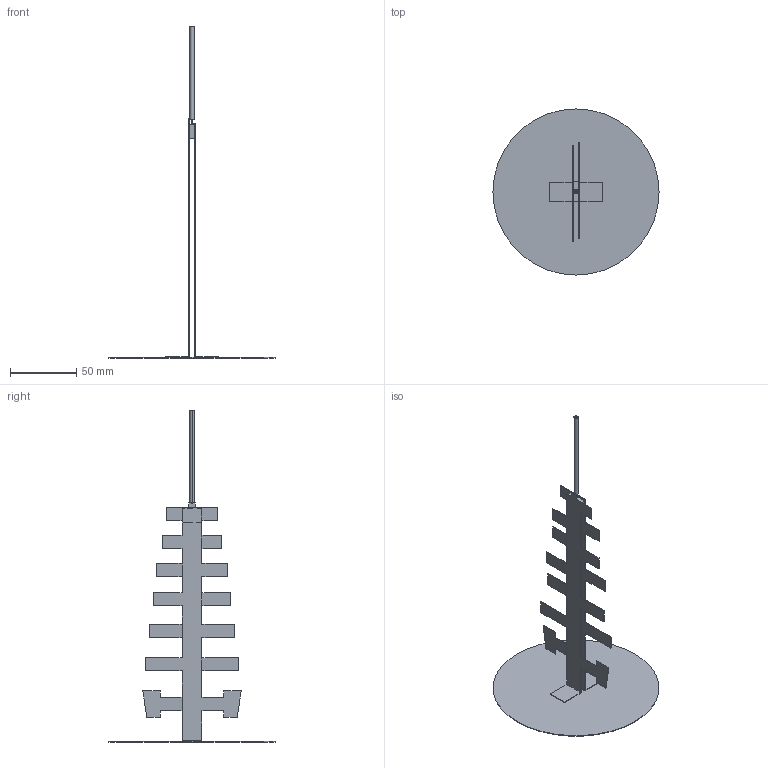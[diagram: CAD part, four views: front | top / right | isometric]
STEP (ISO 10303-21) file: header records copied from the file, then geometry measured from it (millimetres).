
FILE_DESCRIPTION(('STEP AP214'),'1');
FILE_NAME('D:/CSTmws/Logoped2100wood3D.stp','2017-12-31T07:39:06',('Evgeny'),(' '),'Spatial InterOp 3D','CST ACIS InterOp Converter 2009',' ');
FILE_SCHEMA(('automotive_design'));
Length unit declared in the file: millimetre
Products named in the file (11): component1|solid1; component1|solid1_1; component1|solid2; component1|solid3; component1|solid5; component1|solid2_1; component1|solid6; component1|solid7; component1|solid8; component1|solid9; component1|solid10
Bounding box: 125 x 125 x 249.9 mm (x, y, z)
Volume: 11610.2 mm3; surface area: 45522.1 mm2
Topology: 11 solids, 11 shells, 121 faces, 298 edges, 197 vertices
Faces by surface type: plane 109, cylinder 10, sphere 2
Entity records: 4732 total; most frequent: CARTESIAN_POINT 625, ORIENTED_EDGE 592, DIRECTION 582, EDGE_CURVE 296, LINE 274, VECTOR 274, VERTEX_POINT 197, AXIS2_PLACEMENT_3D 154
